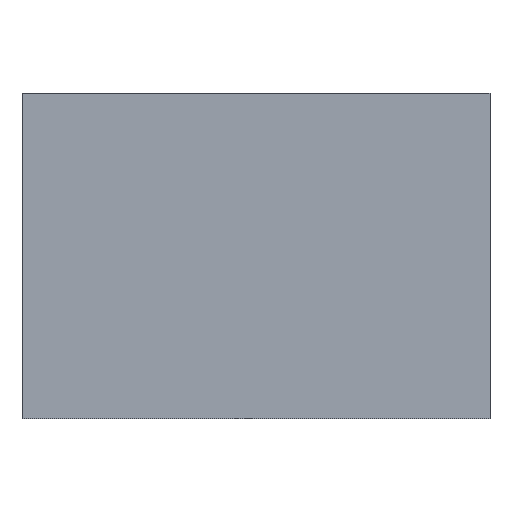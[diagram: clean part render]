
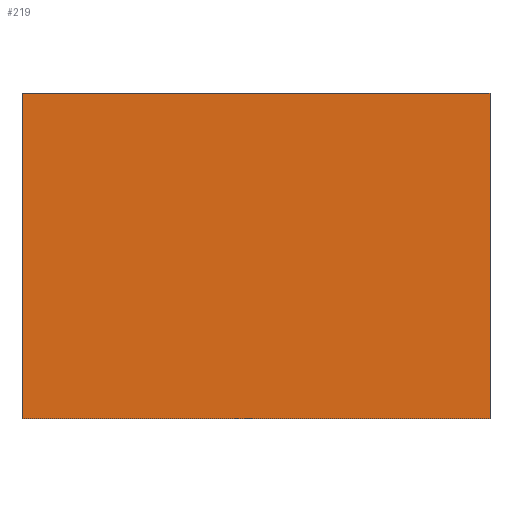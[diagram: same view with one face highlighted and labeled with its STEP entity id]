
A CAD part, front view. The second image highlights one B-rep face of the part: STEP entity #219.
In plain terms, the highlighted planar face has unit normal (0, -1, 0).
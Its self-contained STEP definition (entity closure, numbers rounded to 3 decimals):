
#219=ADVANCED_FACE('',(#389),#391,.T.);
#389=FACE_BOUND('',#390,.T.);
#390=EDGE_LOOP('',(#444,#445,#446,#447));
#391=PLANE('',#392);
#392=AXIS2_PLACEMENT_3D('',#393,#394,#395);
#393=CARTESIAN_POINT('',(23.85,0.,-16.6));
#394=DIRECTION('',(0.,-1.,0.));
#395=DIRECTION('',(0.,0.,-1.));
#444=ORIENTED_EDGE('',*,*,#466,.F.);
#445=ORIENTED_EDGE('',*,*,#473,.F.);
#446=ORIENTED_EDGE('',*,*,#471,.F.);
#447=ORIENTED_EDGE('',*,*,#469,.F.);
#466=EDGE_CURVE('',#510,#511,#512,.T.);
#469=EDGE_CURVE('',#511,#515,#516,.T.);
#471=EDGE_CURVE('',#515,#518,#519,.T.);
#473=EDGE_CURVE('',#518,#510,#521,.T.);
#510=VERTEX_POINT('',#608);
#511=VERTEX_POINT('',#609);
#512=LINE('',#610,#611);
#515=VERTEX_POINT('',#619);
#516=LINE('',#620,#621);
#518=VERTEX_POINT('',#626);
#519=LINE('',#627,#628);
#521=LINE('',#633,#634);
#608=CARTESIAN_POINT('',(0.,0.,0.));
#609=CARTESIAN_POINT('',(47.7,0.,0.));
#610=CARTESIAN_POINT('',(0.,0.,0.));
#611=VECTOR('',#612,1.);
#612=DIRECTION('',(1.,0.,0.));
#619=CARTESIAN_POINT('',(47.7,0.,-33.2));
#620=CARTESIAN_POINT('',(47.7,0.,0.));
#621=VECTOR('',#622,1.);
#622=DIRECTION('',(0.,0.,-1.));
#626=CARTESIAN_POINT('',(0.,0.,-33.2));
#627=CARTESIAN_POINT('',(47.7,0.,-33.2));
#628=VECTOR('',#629,1.);
#629=DIRECTION('',(-1.,0.,0.));
#633=CARTESIAN_POINT('',(0.,0.,-33.2));
#634=VECTOR('',#635,1.);
#635=DIRECTION('',(0.,0.,1.));
